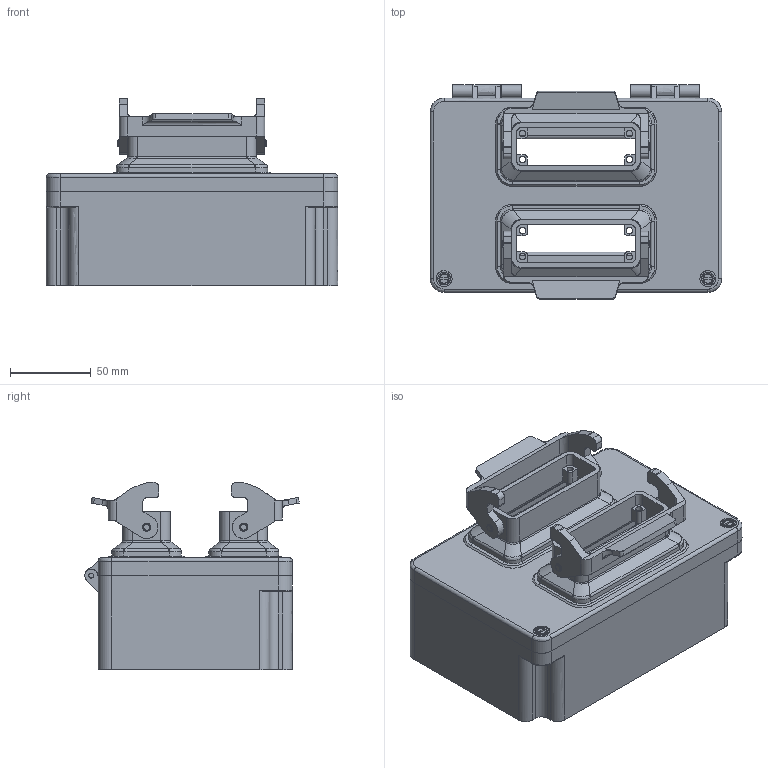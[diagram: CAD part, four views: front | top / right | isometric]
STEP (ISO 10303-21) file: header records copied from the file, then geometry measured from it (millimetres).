
FILE_DESCRIPTION( ( 'STEP AP214' ), '1' );
FILE_NAME( 'C:/Dokumente und Einstellungen/Administrator/Desktop/47 Kabelboxen/G4/1/gr_4_16a_16a-bb.stp', '2006-09-10T19:29:59', ( ' ' ), ( ' ' ), 'XStep 1.0', 'VISICAD', ' ' );
FILE_SCHEMA( ( 'automotive_design' ) );
Length unit declared in the file: millimetre
Products named in the file (1093): 1; 2; 3; 4; 5; 6; 7; 8; 9; 10; 11; 12; 13; 14; 15; 16; 17; 18; 19; 20; 21; 22; 23; 24; 25; 26; 27; 28; 29; 30; 31; 32; 33; 34; 35; 36; 37; 38; 39; 40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
Bounding box: 180 x 132.44 x 115.52 mm (x, y, z)
Surface area: 192744.3 mm2 (no closed solid volume)
Topology: 0 solids, 1093 shells, 1093 faces, 5676 edges, 5676 vertices
Faces by surface type: plane 427, bspline 356, revolution 268, cylinder 42
Entity records: 120367 total; most frequent: CARTESIAN_POINT 54703, DIRECTION 7606, ORIENTED_EDGE 5676, EDGE_CURVE 5676, VERTEX_POINT 5676, LINE 2918, VECTOR 2918, B_SPLINE_CURVE_WITH_KNOTS 2362
